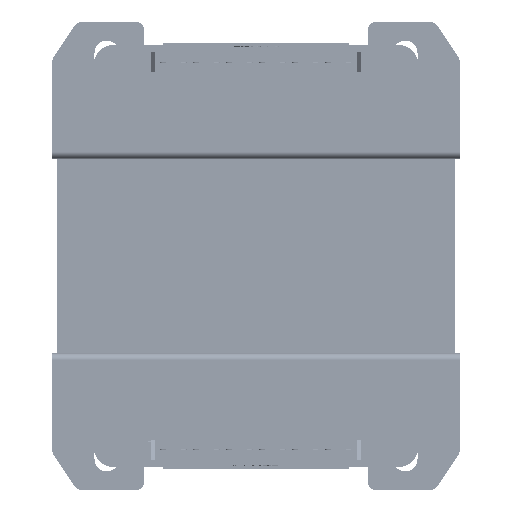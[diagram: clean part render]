
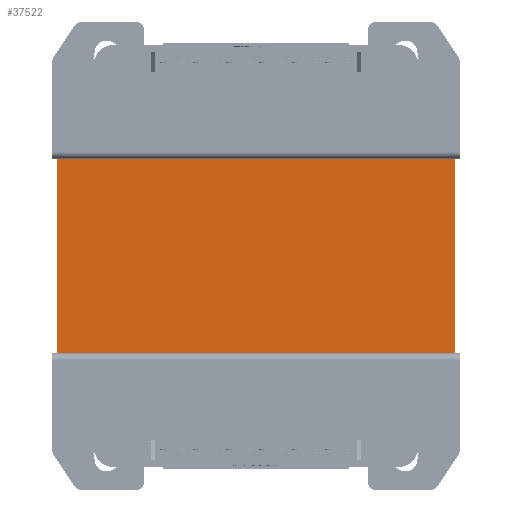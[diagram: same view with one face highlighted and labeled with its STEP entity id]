
A CAD part, front view. The second image highlights one B-rep face of the part: STEP entity #37522.
In plain terms, the highlighted planar face has unit normal (0, -1, 0).
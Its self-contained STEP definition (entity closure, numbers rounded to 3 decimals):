
#2199 = DIRECTION ( 'NONE',  ( 1., 0., 0. ) ) ;
#7351 = CARTESIAN_POINT ( 'NONE',  ( -48., -40., 23.5 ) ) ;
#8055 = DIRECTION ( 'NONE',  ( 0., 0., -1. ) ) ;
#8240 = VERTEX_POINT ( 'NONE', #106788 ) ;
#14454 = CARTESIAN_POINT ( 'NONE',  ( -48., -40., 23.5 ) ) ;
#20028 = VECTOR ( 'NONE', #2199, 1000. ) ;
#20944 = CARTESIAN_POINT ( 'NONE',  ( 48., -40., -23.5 ) ) ;
#20950 = EDGE_CURVE ( 'NONE', #8240, #79686, #95360, .T. ) ;
#20979 = CARTESIAN_POINT ( 'NONE',  ( -48., -40., 23.5 ) ) ;
#21940 = EDGE_CURVE ( 'NONE', #102760, #79686, #51430, .T. ) ;
#25358 = DIRECTION ( 'NONE',  ( 1., 0., 0. ) ) ;
#26563 = VECTOR ( 'NONE', #25358, 1000. ) ;
#28475 = ORIENTED_EDGE ( 'NONE', *, *, #34246, .F. ) ;
#29608 = VECTOR ( 'NONE', #89071, 1000. ) ;
#34246 = EDGE_CURVE ( 'NONE', #101482, #8240, #72461, .T. ) ;
#37522 = ADVANCED_FACE ( 'NONE', ( #82880 ), #118269, .F. ) ;
#44064 = DIRECTION ( 'NONE',  ( 0., 0., 1. ) ) ;
#45103 = EDGE_LOOP ( 'NONE', ( #96181, #57874, #28475, #66888 ) ) ;
#48699 = VECTOR ( 'NONE', #8055, 1000. ) ;
#51430 = LINE ( 'NONE', #108928, #26563 ) ;
#54411 = LINE ( 'NONE', #14454, #29608 ) ;
#57874 = ORIENTED_EDGE ( 'NONE', *, *, #20950, .F. ) ;
#66330 = EDGE_CURVE ( 'NONE', #101482, #102760, #54411, .T. ) ;
#66888 = ORIENTED_EDGE ( 'NONE', *, *, #66330, .T. ) ;
#72461 = LINE ( 'NONE', #20979, #20028 ) ;
#79686 = VERTEX_POINT ( 'NONE', #20944 ) ;
#82880 = FACE_OUTER_BOUND ( 'NONE', #45103, .T. ) ;
#89071 = DIRECTION ( 'NONE',  ( 0., 0., -1. ) ) ;
#90507 = CARTESIAN_POINT ( 'NONE',  ( -48., -40., 23.5 ) ) ;
#95360 = LINE ( 'NONE', #119817, #48699 ) ;
#96181 = ORIENTED_EDGE ( 'NONE', *, *, #21940, .T. ) ;
#99878 = DIRECTION ( 'NONE',  ( 0., 1., 0. ) ) ;
#101050 = CARTESIAN_POINT ( 'NONE',  ( -48., -40., -23.5 ) ) ;
#101482 = VERTEX_POINT ( 'NONE', #7351 ) ;
#102760 = VERTEX_POINT ( 'NONE', #101050 ) ;
#106788 = CARTESIAN_POINT ( 'NONE',  ( 48., -40., 23.5 ) ) ;
#108928 = CARTESIAN_POINT ( 'NONE',  ( -48., -40., -23.5 ) ) ;
#118269 = PLANE ( 'NONE',  #120467 ) ;
#119817 = CARTESIAN_POINT ( 'NONE',  ( 48., -40., 23.5 ) ) ;
#120467 = AXIS2_PLACEMENT_3D ( 'NONE', #90507, #99878, #44064 ) ;
